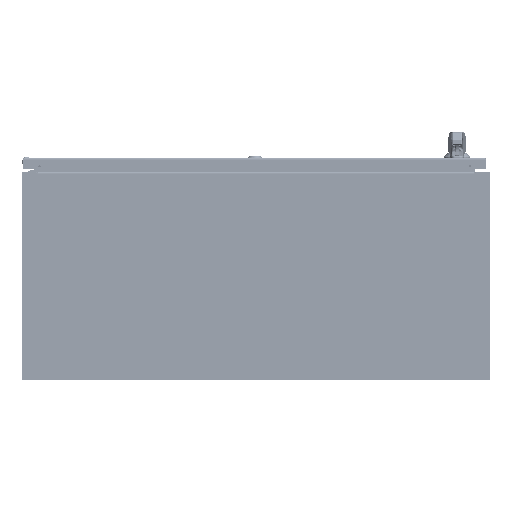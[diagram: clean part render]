
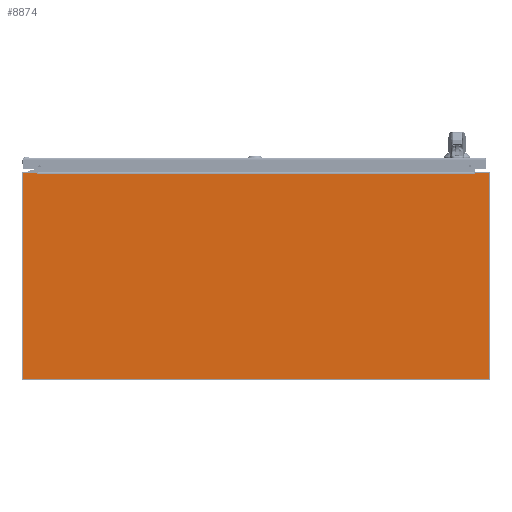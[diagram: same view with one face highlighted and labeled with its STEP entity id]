
A CAD part, front view. The second image highlights one B-rep face of the part: STEP entity #8874.
In plain terms, the highlighted planar face has unit normal (0, -1, 0).
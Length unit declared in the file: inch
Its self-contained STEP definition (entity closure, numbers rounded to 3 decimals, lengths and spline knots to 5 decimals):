
#7657=CARTESIAN_POINT('',(-17.857,0.,7.857));
#7658=DIRECTION('',(0.,-1.,0.));
#7659=DIRECTION('',(0.,0.,1.));
#7660=AXIS2_PLACEMENT_3D('',#7657,#7658,#7659);
#7665=DIRECTION('',(-1.,0.,0.));
#7666=VECTOR('',#7665,1.03388);
#7667=CARTESIAN_POINT('',(-16.82312,0.,7.937));
#7668=LINE('',#7667,#7666);
#7672=DIRECTION('',(0.174,0.,-0.985));
#7673=VECTOR('',#7672,0.05483);
#7674=CARTESIAN_POINT('',(-16.82312,0.,7.937));
#7675=LINE('',#7674,#7673);
#7679=DIRECTION('',(-1.,0.,0.));
#7680=VECTOR('',#7679,0.0156);
#7681=CARTESIAN_POINT('',(-16.798,0.,7.883));
#7682=LINE('',#7681,#7680);
#7686=DIRECTION('',(1.,0.,0.));
#7687=VECTOR('',#7686,0.0156);
#7688=CARTESIAN_POINT('',(16.798,0.,7.883));
#7689=LINE('',#7688,#7687);
#7693=DIRECTION('',(-0.174,0.,-0.985));
#7694=VECTOR('',#7693,0.05483);
#7695=CARTESIAN_POINT('',(16.82312,0.,7.937));
#7696=LINE('',#7695,#7694);
#7700=DIRECTION('',(-1.,0.,0.));
#7701=VECTOR('',#7700,1.03388);
#7702=CARTESIAN_POINT('',(17.857,0.,7.937));
#7703=LINE('',#7702,#7701);
#7707=CARTESIAN_POINT('',(17.857,0.,7.857));
#7708=DIRECTION('',(0.,-1.,0.));
#7709=DIRECTION('',(1.,0.,0.));
#7710=AXIS2_PLACEMENT_3D('',#7707,#7708,#7709);
#7715=DIRECTION('',(0.,0.,1.));
#7716=VECTOR('',#7715,15.714);
#7717=CARTESIAN_POINT('',(17.937,0.,-7.857));
#7718=LINE('',#7717,#7716);
#7722=CARTESIAN_POINT('',(17.857,0.,-7.857));
#7723=DIRECTION('',(0.,-1.,0.));
#7724=DIRECTION('',(0.,0.,-1.));
#7725=AXIS2_PLACEMENT_3D('',#7722,#7723,#7724);
#7730=DIRECTION('',(1.,0.,0.));
#7731=VECTOR('',#7730,35.714);
#7732=CARTESIAN_POINT('',(-17.857,0.,-7.937));
#7733=LINE('',#7732,#7731);
#7737=CARTESIAN_POINT('',(-17.857,0.,-7.857));
#7738=DIRECTION('',(0.,-1.,0.));
#7739=DIRECTION('',(-1.,0.,0.));
#7740=AXIS2_PLACEMENT_3D('',#7737,#7738,#7739);
#7745=DIRECTION('',(0.,0.,-1.));
#7746=VECTOR('',#7745,15.714);
#7747=CARTESIAN_POINT('',(-17.937,0.,7.857));
#7748=LINE('',#7747,#7746);
#8026=DIRECTION('',(1.,0.,0.));
#8027=VECTOR('',#8026,33.596);
#8028=CARTESIAN_POINT('',(-16.798,0.,7.883));
#8029=LINE('',#8028,#8027);
#8687=CARTESIAN_POINT('',(16.798,0.,7.883));
#8688=CARTESIAN_POINT('',(16.8136,0.,7.883));
#8689=VERTEX_POINT('',#8687);
#8690=VERTEX_POINT('',#8688);
#8691=CARTESIAN_POINT('',(16.82312,0.,7.937));
#8692=VERTEX_POINT('',#8691);
#8699=CARTESIAN_POINT('',(-16.798,0.,7.883));
#8700=CARTESIAN_POINT('',(-16.8136,0.,7.883));
#8701=VERTEX_POINT('',#8699);
#8702=VERTEX_POINT('',#8700);
#8703=CARTESIAN_POINT('',(-16.82312,0.,7.937));
#8704=VERTEX_POINT('',#8703);
#8763=CARTESIAN_POINT('',(-17.857,0.,7.937));
#8764=CARTESIAN_POINT('',(-17.937,0.,7.857));
#8765=VERTEX_POINT('',#8763);
#8766=VERTEX_POINT('',#8764);
#8771=CARTESIAN_POINT('',(-17.937,0.,-7.857));
#8772=CARTESIAN_POINT('',(-17.857,0.,-7.937));
#8773=VERTEX_POINT('',#8771);
#8774=VERTEX_POINT('',#8772);
#8779=CARTESIAN_POINT('',(17.857,0.,-7.937));
#8780=CARTESIAN_POINT('',(17.937,0.,-7.857));
#8781=VERTEX_POINT('',#8779);
#8782=VERTEX_POINT('',#8780);
#8787=CARTESIAN_POINT('',(17.937,0.,7.857));
#8788=CARTESIAN_POINT('',(17.857,0.,7.937));
#8789=VERTEX_POINT('',#8787);
#8790=VERTEX_POINT('',#8788);
#8839=CARTESIAN_POINT('',(0.,0.,0.));
#8840=DIRECTION('',(0.,-1.,0.));
#8841=DIRECTION('',(-1.,0.,0.));
#8842=AXIS2_PLACEMENT_3D('',#8839,#8840,#8841);
#8843=PLANE('',#8842);
#8845=ORIENTED_EDGE('',*,*,#8844,.F.);
#8847=ORIENTED_EDGE('',*,*,#8846,.F.);
#8849=ORIENTED_EDGE('',*,*,#8848,.T.);
#8851=ORIENTED_EDGE('',*,*,#8850,.F.);
#8853=ORIENTED_EDGE('',*,*,#8852,.T.);
#8855=ORIENTED_EDGE('',*,*,#8854,.T.);
#8857=ORIENTED_EDGE('',*,*,#8856,.F.);
#8859=ORIENTED_EDGE('',*,*,#8858,.F.);
#8861=ORIENTED_EDGE('',*,*,#8860,.F.);
#8863=ORIENTED_EDGE('',*,*,#8862,.F.);
#8865=ORIENTED_EDGE('',*,*,#8864,.F.);
#8867=ORIENTED_EDGE('',*,*,#8866,.F.);
#8869=ORIENTED_EDGE('',*,*,#8868,.F.);
#8871=ORIENTED_EDGE('',*,*,#8870,.F.);
#8872=EDGE_LOOP('',(#8845,#8847,#8849,#8851,#8853,#8855,#8857,#8859,#8861,#8863,
#8865,#8867,#8869,#8871));
#8873=FACE_OUTER_BOUND('',#8872,.F.);
#7661=CIRCLE('',#7660,0.08);
#7711=CIRCLE('',#7710,0.08);
#7726=CIRCLE('',#7725,0.08);
#7741=CIRCLE('',#7740,0.08);
#8844=EDGE_CURVE('',#8765,#8766,#7661,.T.);
#8846=EDGE_CURVE('',#8704,#8765,#7668,.T.);
#8848=EDGE_CURVE('',#8704,#8702,#7675,.T.);
#8850=EDGE_CURVE('',#8701,#8702,#7682,.T.);
#8852=EDGE_CURVE('',#8701,#8689,#8029,.T.);
#8854=EDGE_CURVE('',#8689,#8690,#7689,.T.);
#8856=EDGE_CURVE('',#8692,#8690,#7696,.T.);
#8858=EDGE_CURVE('',#8790,#8692,#7703,.T.);
#8860=EDGE_CURVE('',#8789,#8790,#7711,.T.);
#8862=EDGE_CURVE('',#8782,#8789,#7718,.T.);
#8864=EDGE_CURVE('',#8781,#8782,#7726,.T.);
#8866=EDGE_CURVE('',#8774,#8781,#7733,.T.);
#8868=EDGE_CURVE('',#8773,#8774,#7741,.T.);
#8870=EDGE_CURVE('',#8766,#8773,#7748,.T.);
#8874=ADVANCED_FACE('',(#8873),#8843,.T.);
